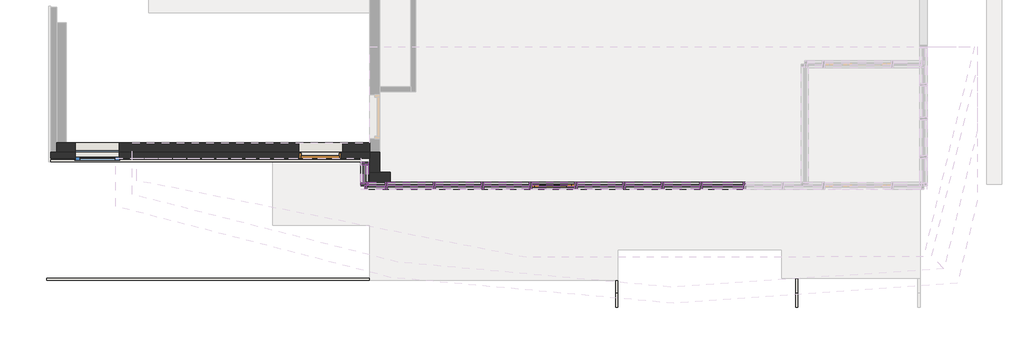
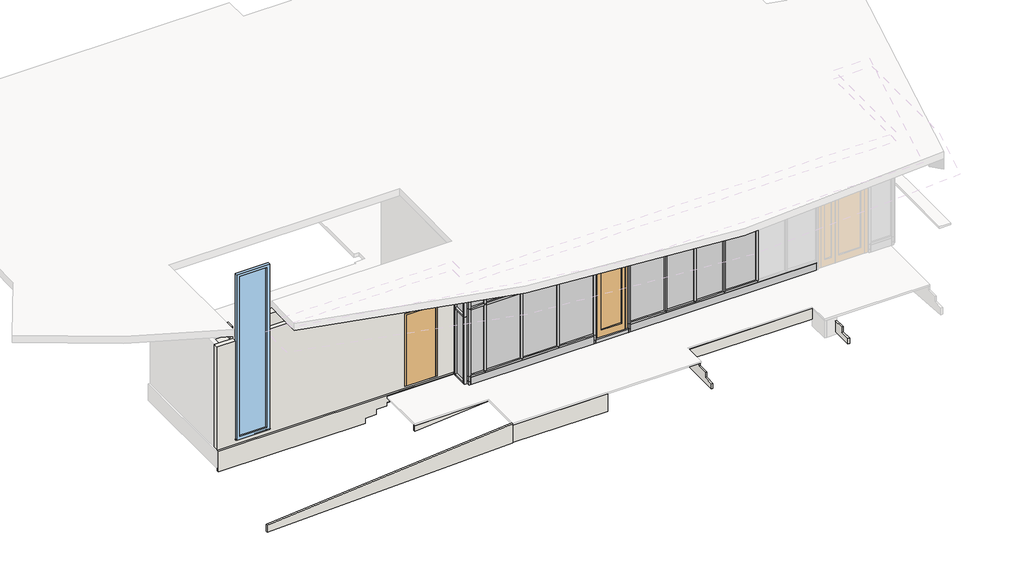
# One storey, part 1 of 4: 59 members, 22 plates, 11 walls, 2 doors, 1 window.
"""IFC4 building model written with IfcOpenShell, lengths in millimetres."""

from ifc_helpers import new_model, si_unit, frame, origin, place, context, project, spatial, polyline, outline, extrude, faceted_brep, transform, mapped, element, save
from components import door_d470666a, door_6cd90bed, member_1f1ab5e9, member_728da853, member_65e6a114, member_e1845f1f, member_3eef92e2, member_550cda47, member_dfe3d6a4, member_004b0564, member_3ddb3363, member_35d6a770, member_55273b40, member_66c8288a, member_bb797b61, member_24efe938, member_14f10ac7, member_bbc1c4ea, member_08303c98, member_8108f97d, member_a620d0bf, member_0ac3c94c, member_a053b0ca, member_12a430f9, member_f478ca5a, member_324a6438, member_457f9466, member_0d3281e4, plate_75760212, plate_d41ff481, plate_732bb6f4, plate_903b2bb5, plate_109dd5f9, plate_8821ab84, plate_eb32b48a, plate_163f2816, plate_3708f6d8, plate_828eb35e, plate_20944b83, window_9bf5e63c

model = new_model("IFC4")

# Units and contexts
model_context = context("Model", 3, world=origin())
ifc_project = project(units=[si_unit("LENGTHUNIT", "METRE", prefix="MILLI")], contexts=[model_context])

# Site, building, storey
site = spatial("IfcSite", under=ifc_project)
building = spatial("IfcBuilding", under=site)
storey = spatial("IfcBuildingStorey", under=building, Name="Этаж 1", Elevation=0.0)

# Doors
placement = place(None, origin())
door_shape = door_d470666a(model_context)
element("IfcDoor", 1, ObjectType="(Dr)_ДПУ(распашная)_1Ст_Прямоугольная : (Вн)-ДО(0.9x2.065(h))", at=placement, inside=storey, context=model_context, shape_type="MappedRepresentation", body=[
    mapped(door_shape, transform((19882.9914484, -895.4505288, 50.0), x_axis=(-1.0, 0.0, 0.0), y_axis=(0.0, -1.0, 0.0), z_axis=(0.0, 0.0, 1.0))),
])
door_2_shape = door_6cd90bed(model_context)
element("IfcDoor", 2, ObjectType="(Dr)_ДУ(распашная)_1Ст_Прямоугольная : (Нр)_ДГ(0.89х2.1(h))", at=placement, inside=storey, context=model_context, shape_type="MappedRepresentation", body=[
    mapped(door_2_shape, transform((15031.0, -260.0, 0.0), x_axis=(-1.0, 0.0, 0.0), y_axis=(0.0, -1.0, 0.0), z_axis=(0.0, 0.0, 1.0))),
])

# Members
member_shape = member_1f1ab5e9(model_context)
element("IfcMember", 3, ObjectType="Прямоугольный импост : 50х150мм", at=placement, inside=storey, context=model_context, shape_type="MappedRepresentation", body=[
    mapped(member_shape, transform((16407.9914484, -895.4505288, 2140.0), x_axis=(1.0, 0.0, 0.0), y_axis=(0.0, -1.0, 0.0), z_axis=(0.0, 0.0, -1.0))),
])
element("IfcMember", 4, ObjectType="Прямоугольный импост : 50х150мм", at=placement, inside=storey, context=model_context, shape_type="MappedRepresentation", body=[
    mapped(member_shape, transform((17407.9914484, -895.4505288, 2140.0), x_axis=(1.0, 0.0, 0.0), y_axis=(0.0, -1.0, 0.0), z_axis=(0.0, 0.0, -1.0))),
])
element("IfcMember", 5, ObjectType="Прямоугольный импост : 50х150мм", at=placement, inside=storey, context=model_context, shape_type="MappedRepresentation", body=[
    mapped(member_shape, transform((19407.9914484, -895.4505288, 2140.0), x_axis=(1.0, 0.0, 0.0), y_axis=(0.0, -1.0, 0.0), z_axis=(0.0, 0.0, -1.0))),
])
element("IfcMember", 6, ObjectType="Прямоугольный импост : 50х150мм", at=placement, inside=storey, context=model_context, shape_type="MappedRepresentation", body=[
    mapped(member_shape, transform((20357.9914484, -895.4505288, 2140.0), x_axis=(1.0, 0.0, 0.0), y_axis=(0.0, -1.0, 0.0), z_axis=(0.0, 0.0, -1.0))),
])
element("IfcMember", 7, ObjectType="Прямоугольный импост : 50х150мм", at=placement, inside=storey, context=model_context, shape_type="MappedRepresentation", body=[
    mapped(member_shape, transform((21357.9914484, -895.4505288, 2140.0), x_axis=(1.0, 0.0, 0.0), y_axis=(0.0, -1.0, 0.0), z_axis=(0.0, 0.0, -1.0))),
])
element("IfcMember", 8, ObjectType="Прямоугольный импост : 50х150мм", at=placement, inside=storey, context=model_context, shape_type="MappedRepresentation", body=[
    mapped(member_shape, transform((22157.9914484, -895.4505288, 2140.0), x_axis=(1.0, 0.0, 0.0), y_axis=(0.0, -1.0, 0.0), z_axis=(0.0, 0.0, -1.0))),
])
element("IfcMember", 9, ObjectType="Прямоугольный импост : 50х150мм", at=placement, inside=storey, context=model_context, shape_type="MappedRepresentation", body=[
    mapped(member_shape, transform((22957.9914484, -895.4505288, 2140.0), x_axis=(1.0, 0.0, 0.0), y_axis=(0.0, -1.0, 0.0), z_axis=(0.0, 0.0, -1.0))),
])
element("IfcMember", 10, ObjectType="Прямоугольный импост : 50х150мм", at=placement, inside=storey, context=model_context, shape_type="MappedRepresentation", body=[
    mapped(member_shape, transform((23857.9914484, -895.4505288, 2140.0), x_axis=(1.0, 0.0, 0.0), y_axis=(0.0, -1.0, 0.0), z_axis=(0.0, 0.0, -1.0))),
])
element("IfcMember", 11, ObjectType="Прямоугольный импост : 50х150мм", at=placement, inside=storey, context=model_context, shape_type="MappedRepresentation", body=[
    mapped(member_shape, transform((18407.9914484, -895.4505288, 2140.0), x_axis=(1.0, 0.0, 0.0), y_axis=(0.0, -1.0, 0.0), z_axis=(0.0, 0.0, -1.0))),
])
member_2_shape = member_728da853(model_context)
element("IfcMember", 12, ObjectType="Прямоугольный импост : 50х150мм", at=placement, inside=storey, context=model_context, shape_type="MappedRepresentation", body=[
    mapped(member_2_shape, transform((19407.9914484, -895.4505288, 190.0), x_axis=(1.0, 0.0, 0.0), y_axis=(0.0, -1.0, 0.0), z_axis=(0.0, 0.0, -1.0))),
])
element("IfcMember", 13, ObjectType="Прямоугольный импост : 50х150мм", at=placement, inside=storey, context=model_context, shape_type="MappedRepresentation", body=[
    mapped(member_2_shape, transform((20357.9914484, -895.4505288, 190.0), x_axis=(1.0, 0.0, 0.0), y_axis=(0.0, -1.0, 0.0), z_axis=(0.0, 0.0, -1.0))),
])
member_3_shape = member_65e6a114(model_context)
element("IfcMember", 14, ObjectType="Прямоугольный импост : 50х150мм", at=placement, inside=storey, context=model_context, shape_type="MappedRepresentation", body=[
    mapped(member_3_shape, transform((15957.9914484, -895.4505288, 3300.0), x_axis=(-1.0, 0.0, 0.0), y_axis=(0.0, -1.0, 0.0), z_axis=(0.0, 0.0, 1.0))),
])
member_4_shape = member_e1845f1f(model_context)
element("IfcMember", 15, ObjectType="Прямоугольный импост : 50х150мм", at=placement, inside=storey, context=model_context, shape_type="MappedRepresentation", body=[
    mapped(member_4_shape, transform((15957.9914484, -895.4505288, 2140.0), x_axis=(-1.0, 0.0, 0.0), y_axis=(0.0, -1.0, 0.0), z_axis=(0.0, 0.0, 1.0))),
])
member_5_shape = member_3eef92e2(model_context)
element("IfcMember", 16, ObjectType="Прямоугольный импост : 50х150мм", at=placement, inside=storey, context=model_context, shape_type="MappedRepresentation", body=[
    mapped(member_5_shape, transform((19407.9914484, -895.4505288, -50.0), x_axis=(1.0, 0.0, 0.0), y_axis=(0.0, -1.0, 0.0), z_axis=(0.0, 0.0, -1.0))),
])
element("IfcMember", 17, ObjectType="Прямоугольный импост : 50х150мм", at=placement, inside=storey, context=model_context, shape_type="MappedRepresentation", body=[
    mapped(member_5_shape, transform((20357.9914484, -895.4505288, -50.0), x_axis=(1.0, 0.0, 0.0), y_axis=(0.0, -1.0, 0.0), z_axis=(0.0, 0.0, -1.0))),
])
member_6_shape = member_550cda47(model_context)
element("IfcMember", 18, ObjectType="Прямоугольный импост : 50х150мм", at=placement, inside=storey, context=model_context, shape_type="MappedRepresentation", body=[
    mapped(member_6_shape, transform((15957.9914484, -895.4505288, 50.0), x_axis=(-1.0, 0.0, 0.0), y_axis=(0.0, -1.0, 0.0), z_axis=(0.0, 0.0, 1.0))),
])
member_7_shape = member_dfe3d6a4(model_context)
element("IfcMember", 19, ObjectType="Прямоугольный импост : 50х150мм", at=placement, inside=storey, context=model_context, shape_type="MappedRepresentation", body=[
    mapped(member_7_shape, transform((19407.9914484, -895.4505288, 50.0), x_axis=(1.0, 0.0, 0.0), y_axis=(0.0, -1.0, 0.0), z_axis=(0.0, 0.0, -1.0))),
])
element("IfcMember", 20, ObjectType="Прямоугольный импост : 50х150мм", at=placement, inside=storey, context=model_context, shape_type="MappedRepresentation", body=[
    mapped(member_7_shape, transform((20357.9914484, -895.4505288, 50.0), x_axis=(1.0, 0.0, 0.0), y_axis=(0.0, -1.0, 0.0), z_axis=(0.0, 0.0, -1.0))),
])
member_8_shape = member_004b0564(model_context)
element("IfcMember", 21, ObjectType="Прямоугольный импост : 50х150мм", at=placement, inside=storey, context=model_context, shape_type="MappedRepresentation", body=[
    mapped(member_8_shape, transform((15957.9914484, -895.4505288, 190.0), x_axis=(-1.0, 0.0, 0.0), y_axis=(0.0, -1.0, 0.0), z_axis=(0.0, 0.0, 1.0))),
])
member_9_shape = member_3ddb3363(model_context)
element("IfcMember", 22, ObjectType="Прямоугольный импост : 50х150мм", at=placement, inside=storey, context=model_context, shape_type="MappedRepresentation", body=[
    mapped(member_9_shape, transform((20332.9914484, -895.4505288, 2140.0), x_axis=(0.0, 0.0, 1.0), y_axis=(0.0, -1.0, 0.0), z_axis=(1.0, 0.0, 0.0))),
])
member_10_shape = member_35d6a770(model_context)
element("IfcMember", 23, ObjectType="Прямоугольный импост : 50х150мм", at=placement, inside=storey, context=model_context, shape_type="MappedRepresentation", body=[
    mapped(member_10_shape, transform((20332.9914484, -895.4505288, 3300.0), x_axis=(0.0, 0.0, 1.0), y_axis=(0.0, -1.0, 0.0), z_axis=(1.0, 0.0, 0.0))),
])
member_11_shape = member_55273b40(model_context)
element("IfcMember", 24, ObjectType="Прямоугольный импост : 50х150мм", at=placement, inside=storey, context=model_context, shape_type="MappedRepresentation", body=[
    mapped(member_11_shape, transform((16382.9914484, -895.4505288, 2140.0), x_axis=(0.0, 0.0, 1.0), y_axis=(0.0, -1.0, 0.0), z_axis=(1.0, 0.0, 0.0))),
])
member_12_shape = member_66c8288a(model_context)
element("IfcMember", 25, ObjectType="Прямоугольный импост : 50х150мм", at=placement, inside=storey, context=model_context, shape_type="MappedRepresentation", body=[
    mapped(member_12_shape, transform((16382.9914484, -895.4505288, 3300.0), x_axis=(0.0, 0.0, 1.0), y_axis=(0.0, -1.0, 0.0), z_axis=(1.0, 0.0, 0.0))),
])
member_13_shape = member_bb797b61(model_context)
element("IfcMember", 26, ObjectType="Прямоугольный импост : 50х150мм", at=placement, inside=storey, context=model_context, shape_type="MappedRepresentation", body=[
    mapped(member_13_shape, transform((21357.9914484, -895.4505288, 190.0), x_axis=(0.0, 0.0, 1.0), y_axis=(0.0, -1.0, 0.0), z_axis=(1.0, 0.0, 0.0))),
])
member_14_shape = member_24efe938(model_context)
element("IfcMember", 27, ObjectType="Прямоугольный импост : 50х150мм", at=placement, inside=storey, context=model_context, shape_type="MappedRepresentation", body=[
    mapped(member_14_shape, transform((16407.9914484, -895.4505288, 215.0), x_axis=(1.0, 0.0, 0.0), y_axis=(0.0, -1.0, 0.0), z_axis=(0.0, 0.0, -1.0))),
])
element("IfcMember", 28, ObjectType="Прямоугольный импост : 50х150мм", at=placement, inside=storey, context=model_context, shape_type="MappedRepresentation", body=[
    mapped(member_14_shape, transform((17407.9914484, -895.4505288, 215.0), x_axis=(1.0, 0.0, 0.0), y_axis=(0.0, -1.0, 0.0), z_axis=(0.0, 0.0, -1.0))),
])
element("IfcMember", 29, ObjectType="Прямоугольный импост : 50х150мм", at=placement, inside=storey, context=model_context, shape_type="MappedRepresentation", body=[
    mapped(member_14_shape, transform((21357.9914484, -895.4505288, 215.0), x_axis=(1.0, 0.0, 0.0), y_axis=(0.0, -1.0, 0.0), z_axis=(0.0, 0.0, -1.0))),
])
element("IfcMember", 30, ObjectType="Прямоугольный импост : 50х150мм", at=placement, inside=storey, context=model_context, shape_type="MappedRepresentation", body=[
    mapped(member_14_shape, transform((22157.9914484, -895.4505288, 215.0), x_axis=(1.0, 0.0, 0.0), y_axis=(0.0, -1.0, 0.0), z_axis=(0.0, 0.0, -1.0))),
])
element("IfcMember", 31, ObjectType="Прямоугольный импост : 50х150мм", at=placement, inside=storey, context=model_context, shape_type="MappedRepresentation", body=[
    mapped(member_14_shape, transform((22957.9914484, -895.4505288, 215.0), x_axis=(1.0, 0.0, 0.0), y_axis=(0.0, -1.0, 0.0), z_axis=(0.0, 0.0, -1.0))),
])
element("IfcMember", 32, ObjectType="Прямоугольный импост : 50х150мм", at=placement, inside=storey, context=model_context, shape_type="MappedRepresentation", body=[
    mapped(member_14_shape, transform((23857.9914484, -895.4505288, 215.0), x_axis=(1.0, 0.0, 0.0), y_axis=(0.0, -1.0, 0.0), z_axis=(0.0, 0.0, -1.0))),
])
element("IfcMember", 33, ObjectType="Прямоугольный импост : 50х150мм", at=placement, inside=storey, context=model_context, shape_type="MappedRepresentation", body=[
    mapped(member_14_shape, transform((18407.9914484, -895.4505288, 215.0), x_axis=(1.0, 0.0, 0.0), y_axis=(0.0, -1.0, 0.0), z_axis=(0.0, 0.0, -1.0))),
])
member_15_shape = member_14f10ac7(model_context)
element("IfcMember", 34, ObjectType="Прямоугольный импост : 50х150мм", at=placement, inside=storey, context=model_context, shape_type="MappedRepresentation", body=[
    mapped(member_15_shape, transform((22157.9914484, -895.4505288, 190.0), x_axis=(0.0, 0.0, 1.0), y_axis=(0.0, -1.0, 0.0), z_axis=(1.0, 0.0, 0.0))),
])
element("IfcMember", 35, ObjectType="Прямоугольный импост : 50х150мм", at=placement, inside=storey, context=model_context, shape_type="MappedRepresentation", body=[
    mapped(member_15_shape, transform((22957.9914484, -895.4505288, 190.0), x_axis=(0.0, 0.0, 1.0), y_axis=(0.0, -1.0, 0.0), z_axis=(1.0, 0.0, 0.0))),
])
element("IfcMember", 36, ObjectType="Прямоугольный импост : 50х150мм", at=placement, inside=storey, context=model_context, shape_type="MappedRepresentation", body=[
    mapped(member_9_shape, transform((23857.9914484, -895.4505288, 190.0), x_axis=(0.0, 0.0, 1.0), y_axis=(0.0, -1.0, 0.0), z_axis=(1.0, 0.0, 0.0))),
])
element("IfcMember", 37, ObjectType="Прямоугольный импост : 50х150мм", at=placement, inside=storey, context=model_context, shape_type="MappedRepresentation", body=[
    mapped(member_13_shape, transform((19382.9914484, -895.4505288, 190.0), x_axis=(0.0, 0.0, 1.0), y_axis=(0.0, -1.0, 0.0), z_axis=(1.0, 0.0, 0.0))),
])
member_16_shape = member_bbc1c4ea(model_context)
element("IfcMember", 38, ObjectType="Прямоугольный импост : 50х150мм", at=placement, inside=storey, context=model_context, shape_type="MappedRepresentation", body=[
    mapped(member_16_shape, transform((17407.9914484, -895.4505288, 190.0), x_axis=(0.0, 0.0, 1.0), y_axis=(0.0, -1.0, 0.0), z_axis=(1.0, 0.0, 0.0))),
])
element("IfcMember", 39, ObjectType="Прямоугольный импост : 50х150мм", at=placement, inside=storey, context=model_context, shape_type="MappedRepresentation", body=[
    mapped(member_16_shape, transform((18407.9914484, -895.4505288, 190.0), x_axis=(0.0, 0.0, 1.0), y_axis=(0.0, -1.0, 0.0), z_axis=(1.0, 0.0, 0.0))),
])
member_17_shape = member_08303c98(model_context)
element("IfcMember", 40, ObjectType="Прямоугольный импост : 50х150мм", at=placement, inside=storey, context=model_context, shape_type="MappedRepresentation", body=[
    mapped(member_17_shape, transform((16407.9914484, -895.4505288, 190.0), x_axis=(0.0, 0.0, 1.0), y_axis=(0.0, -1.0, 0.0), z_axis=(1.0, 0.0, 0.0))),
])
member_18_shape = member_8108f97d(model_context)
element("IfcMember", 41, ObjectType="Прямоугольный импост : 50х150мм", at=placement, inside=storey, context=model_context, shape_type="MappedRepresentation", body=[
    mapped(member_18_shape, transform((15957.9914484, -845.4505288, 3300.0), x_axis=(0.0, 0.0, 1.0), y_axis=(-1.0, 0.0, 0.0), z_axis=(0.0, -1.0, 0.0))),
])
element("IfcMember", 42, ObjectType="Прямоугольный импост : 50х150мм", at=placement, inside=storey, context=model_context, shape_type="MappedRepresentation", body=[
    mapped(member_18_shape, transform((15957.9914484, -460.0, -50.0), x_axis=(0.0, 0.0, -1.0), y_axis=(-1.0, 0.0, 0.0), z_axis=(0.0, 1.0, 0.0))),
])
member_19_shape = member_a620d0bf(model_context)
element("IfcMember", 43, ObjectType="Прямоугольный импост : 50х150мм", at=placement, inside=storey, context=model_context, shape_type="MappedRepresentation", body=[
    mapped(member_19_shape, transform((15957.9914484, -845.4505288, 1900.0), x_axis=(0.0, 0.0, 1.0), y_axis=(-1.0, 0.0, 0.0), z_axis=(0.0, -1.0, 0.0))),
])
element("IfcMember", 44, ObjectType="Прямоугольный импост : 50х150мм", at=placement, inside=storey, context=model_context, shape_type="MappedRepresentation", body=[
    mapped(member_4_shape, transform((15957.9914484, -895.4505288, -50.0), x_axis=(0.0, -1.0, 0.0), y_axis=(-1.0, 0.0, 0.0), z_axis=(0.0, 0.0, -1.0))),
])
member_20_shape = member_0ac3c94c(model_context)
element("IfcMember", 45, ObjectType="Прямоугольный импост : 50х150мм", at=placement, inside=storey, context=model_context, shape_type="MappedRepresentation", body=[
    mapped(member_20_shape, transform((15957.9914484, -410.0, 3300.0), x_axis=(0.0, 1.0, 0.0), y_axis=(-1.0, 0.0, 0.0), z_axis=(0.0, 0.0, 1.0))),
])
element("IfcMember", 46, ObjectType="Прямоугольный импост : 50х150мм", at=placement, inside=storey, context=model_context, shape_type="MappedRepresentation", body=[
    mapped(member_20_shape, transform((15957.9914484, -895.4505288, 1900.0), x_axis=(0.0, -1.0, 0.0), y_axis=(-1.0, 0.0, 0.0), z_axis=(0.0, 0.0, -1.0))),
])
element("IfcMember", 47, ObjectType="Прямоугольный импост : 50х150мм", at=placement, inside=storey, context=model_context, shape_type="MappedRepresentation", body=[
    mapped(member_4_shape, transform((15957.9914484, -410.0, 1900.0), x_axis=(0.0, 1.0, 0.0), y_axis=(-1.0, 0.0, 0.0), z_axis=(0.0, 0.0, 1.0))),
])
member_21_shape = member_a053b0ca(model_context)
element("IfcMember", 48, ObjectType="Прямоугольный импост : 50х150мм", at=placement, inside=storey, context=model_context, shape_type="MappedRepresentation", body=[
    mapped(member_21_shape, transform((17382.9914484, -895.4505288, 2140.0), x_axis=(0.0, 0.0, 1.0), y_axis=(0.0, -1.0, 0.0), z_axis=(1.0, 0.0, 0.0))),
])
element("IfcMember", 49, ObjectType="Прямоугольный импост : 50х150мм", at=placement, inside=storey, context=model_context, shape_type="MappedRepresentation", body=[
    mapped(member_21_shape, transform((18382.9914484, -895.4505288, 2140.0), x_axis=(0.0, 0.0, 1.0), y_axis=(0.0, -1.0, 0.0), z_axis=(1.0, 0.0, 0.0))),
])
element("IfcMember", 50, ObjectType="Прямоугольный импост : 50х150мм", at=placement, inside=storey, context=model_context, shape_type="MappedRepresentation", body=[
    mapped(member_21_shape, transform((21332.9914484, -895.4505288, 2140.0), x_axis=(0.0, 0.0, 1.0), y_axis=(0.0, -1.0, 0.0), z_axis=(1.0, 0.0, 0.0))),
])
element("IfcMember", 51, ObjectType="Прямоугольный импост : 50х150мм", at=placement, inside=storey, context=model_context, shape_type="MappedRepresentation", body=[
    mapped(member_21_shape, transform((19382.9914484, -895.4505288, 2140.0), x_axis=(0.0, 0.0, 1.0), y_axis=(0.0, -1.0, 0.0), z_axis=(1.0, 0.0, 0.0))),
])
member_22_shape = member_12a430f9(model_context)
element("IfcMember", 52, ObjectType="Прямоугольный импост : 50х150мм", at=placement, inside=storey, context=model_context, shape_type="MappedRepresentation", body=[
    mapped(member_22_shape, transform((17382.9914484, -895.4505288, 3300.0), x_axis=(0.0, 0.0, 1.0), y_axis=(0.0, -1.0, 0.0), z_axis=(1.0, 0.0, 0.0))),
])
element("IfcMember", 53, ObjectType="Прямоугольный импост : 50х150мм", at=placement, inside=storey, context=model_context, shape_type="MappedRepresentation", body=[
    mapped(member_22_shape, transform((19382.9914484, -895.4505288, 3300.0), x_axis=(0.0, 0.0, 1.0), y_axis=(0.0, -1.0, 0.0), z_axis=(1.0, 0.0, 0.0))),
])
element("IfcMember", 54, ObjectType="Прямоугольный импост : 50х150мм", at=placement, inside=storey, context=model_context, shape_type="MappedRepresentation", body=[
    mapped(member_22_shape, transform((21332.9914484, -895.4505288, 3300.0), x_axis=(0.0, 0.0, 1.0), y_axis=(0.0, -1.0, 0.0), z_axis=(1.0, 0.0, 0.0))),
])
element("IfcMember", 55, ObjectType="Прямоугольный импост : 50х150мм", at=placement, inside=storey, context=model_context, shape_type="MappedRepresentation", body=[
    mapped(member_22_shape, transform((18382.9914484, -895.4505288, 3300.0), x_axis=(0.0, 0.0, 1.0), y_axis=(0.0, -1.0, 0.0), z_axis=(1.0, 0.0, 0.0))),
])
member_23_shape = member_f478ca5a(model_context)
element("IfcMember", 56, ObjectType="Прямоугольный импост : 50х150мм", at=placement, inside=storey, context=model_context, shape_type="MappedRepresentation", body=[
    mapped(member_23_shape, transform((23832.9914484, -895.4505288, 2140.0), x_axis=(0.0, 0.0, 1.0), y_axis=(0.0, -1.0, 0.0), z_axis=(1.0, 0.0, 0.0))),
])
member_24_shape = member_324a6438(model_context)
element("IfcMember", 57, ObjectType="Прямоугольный импост : 50х150мм", at=placement, inside=storey, context=model_context, shape_type="MappedRepresentation", body=[
    mapped(member_24_shape, transform((23832.9914484, -895.4505288, 3300.0), x_axis=(0.0, 0.0, 1.0), y_axis=(0.0, -1.0, 0.0), z_axis=(1.0, 0.0, 0.0))),
])
member_25_shape = member_457f9466(model_context)
element("IfcMember", 58, ObjectType="Прямоугольный импост : 50х150мм", at=placement, inside=storey, context=model_context, shape_type="MappedRepresentation", body=[
    mapped(member_25_shape, transform((22132.9914484, -895.4505288, 2140.0), x_axis=(0.0, 0.0, 1.0), y_axis=(0.0, -1.0, 0.0), z_axis=(1.0, 0.0, 0.0))),
])
element("IfcMember", 59, ObjectType="Прямоугольный импост : 50х150мм", at=placement, inside=storey, context=model_context, shape_type="MappedRepresentation", body=[
    mapped(member_25_shape, transform((22932.9914484, -895.4505288, 2140.0), x_axis=(0.0, 0.0, 1.0), y_axis=(0.0, -1.0, 0.0), z_axis=(1.0, 0.0, 0.0))),
])
member_26_shape = member_0d3281e4(model_context)
element("IfcMember", 60, ObjectType="Прямоугольный импост : 50х150мм", at=placement, inside=storey, context=model_context, shape_type="MappedRepresentation", body=[
    mapped(member_26_shape, transform((22132.9914484, -895.4505288, 3300.0), x_axis=(0.0, 0.0, 1.0), y_axis=(0.0, -1.0, 0.0), z_axis=(1.0, 0.0, 0.0))),
])
element("IfcMember", 61, ObjectType="Прямоугольный импост : 50х150мм", at=placement, inside=storey, context=model_context, shape_type="MappedRepresentation", body=[
    mapped(member_26_shape, transform((22932.9914484, -895.4505288, 3300.0), x_axis=(0.0, 0.0, 1.0), y_axis=(0.0, -1.0, 0.0), z_axis=(1.0, 0.0, 0.0))),
])

# Plates
element("IfcPlate", 62, ObjectType="(Нр)_(См-10.Ут-130.См-10)", at=placement, inside=storey, context=model_context, shape_type="SweptSolid", body=[
    extrude(outline(polyline([(19382.9914484, -970.4505288), (16007.9914484, -970.4505288), (16007.9914484, -820.4505288), (19382.9914484, -820.4505288), (19382.9914484, -970.4505288)])), frame((0.0, 0.0, -50.0), z_axis=(0.0, 0.0, 1.0), x_axis=(1.0, 0.0, 0.0)), (0.0, 0.0, 1.0), 215.0),
])
element("IfcPlate", 63, ObjectType="(Нр)_(См-10.Ут-130.См-10)", at=placement, inside=storey, context=model_context, shape_type="SweptSolid", body=[
    extrude(outline(polyline([(25481.8862538, -970.4505288), (20382.9914484, -970.4505288), (20382.9914484, -820.4505288), (25481.8862538, -820.4505288), (25481.8862538, -970.4505288)])), frame((0.0, 0.0, -50.0), z_axis=(0.0, 0.0, 1.0), x_axis=(1.0, 0.0, 0.0)), (0.0, 0.0, 1.0), 215.0),
])
element("IfcPlate", 64, ObjectType="(Нр)_(См-10.Ут-130.См-10)", at=placement, inside=storey, context=model_context, shape_type="SweptSolid", body=[
    extrude(outline(polyline([(20332.9914484, -970.4505288), (19432.9914484, -970.4505288), (19432.9914484, -820.4505288), (20332.9914484, -820.4505288), (20332.9914484, -970.4505288)])), frame((0.0, 0.0, -50.0), z_axis=(0.0, 0.0, 1.0), x_axis=(1.0, 0.0, 0.0)), (0.0, 0.0, 1.0), 100.0),
])
plate_shape = plate_75760212(model_context)
element("IfcPlate", 65, ObjectType="Системная панель : Стекло(50мм)", at=placement, inside=storey, context=model_context, shape_type="MappedRepresentation", body=[
    mapped(plate_shape, transform((16907.9914484, -895.4505288, 2165.0), x_axis=(1.0, 0.0, 0.0), y_axis=(0.0, 1.0, 0.0), z_axis=(0.0, 0.0, 1.0))),
])
element("IfcPlate", 66, ObjectType="Системная панель : Стекло(50мм)", at=placement, inside=storey, context=model_context, shape_type="MappedRepresentation", body=[
    mapped(plate_shape, transform((17907.9914484, -895.4505288, 2165.0), x_axis=(1.0, 0.0, 0.0), y_axis=(0.0, 1.0, 0.0), z_axis=(0.0, 0.0, 1.0))),
])
element("IfcPlate", 67, ObjectType="Системная панель : Стекло(50мм)", at=placement, inside=storey, context=model_context, shape_type="MappedRepresentation", body=[
    mapped(plate_shape, transform((20857.9914484, -895.4505288, 2165.0), x_axis=(1.0, 0.0, 0.0), y_axis=(0.0, 1.0, 0.0), z_axis=(0.0, 0.0, 1.0))),
])
element("IfcPlate", 68, ObjectType="Системная панель : Стекло(50мм)", at=placement, inside=storey, context=model_context, shape_type="MappedRepresentation", body=[
    mapped(plate_shape, transform((18907.9914484, -895.4505288, 2165.0), x_axis=(1.0, 0.0, 0.0), y_axis=(0.0, 1.0, 0.0), z_axis=(0.0, 0.0, 1.0))),
])
plate_2_shape = plate_d41ff481(model_context)
element("IfcPlate", 69, ObjectType="Системная панель : Стекло(50мм)", at=placement, inside=storey, context=model_context, shape_type="MappedRepresentation", body=[
    mapped(plate_2_shape, transform((23407.9914484, -895.4505288, 2165.0), x_axis=(1.0, 0.0, 0.0), y_axis=(0.0, 1.0, 0.0), z_axis=(0.0, 0.0, 1.0))),
])
plate_3_shape = plate_732bb6f4(model_context)
element("IfcPlate", 70, ObjectType="Системная панель : Стекло(50мм)", at=placement, inside=storey, context=model_context, shape_type="MappedRepresentation", body=[
    mapped(plate_3_shape, transform((21757.9914484, -895.4505288, 2165.0), x_axis=(1.0, 0.0, 0.0), y_axis=(0.0, 1.0, 0.0), z_axis=(0.0, 0.0, 1.0))),
])
element("IfcPlate", 71, ObjectType="Системная панель : Стекло(50мм)", at=placement, inside=storey, context=model_context, shape_type="MappedRepresentation", body=[
    mapped(plate_3_shape, transform((22557.9914484, -895.4505288, 2165.0), x_axis=(1.0, 0.0, 0.0), y_axis=(0.0, 1.0, 0.0), z_axis=(0.0, 0.0, 1.0))),
])
plate_4_shape = plate_903b2bb5(model_context)
element("IfcPlate", 72, ObjectType="Системная панель : Стекло(50мм)", at=placement, inside=storey, context=model_context, shape_type="MappedRepresentation", body=[
    mapped(plate_4_shape, transform((16907.9914484, -895.4505288, 215.0), x_axis=(1.0, 0.0, 0.0), y_axis=(0.0, 1.0, 0.0), z_axis=(0.0, 0.0, 1.0))),
])
element("IfcPlate", 73, ObjectType="Системная панель : Стекло(50мм)", at=placement, inside=storey, context=model_context, shape_type="MappedRepresentation", body=[
    mapped(plate_4_shape, transform((17907.9914484, -895.4505288, 215.0), x_axis=(1.0, 0.0, 0.0), y_axis=(0.0, 1.0, 0.0), z_axis=(0.0, 0.0, 1.0))),
])
element("IfcPlate", 74, ObjectType="Системная панель : Стекло(50мм)", at=placement, inside=storey, context=model_context, shape_type="MappedRepresentation", body=[
    mapped(plate_4_shape, transform((20857.9914484, -895.4505288, 215.0), x_axis=(1.0, 0.0, 0.0), y_axis=(0.0, 1.0, 0.0), z_axis=(0.0, 0.0, 1.0))),
])
element("IfcPlate", 75, ObjectType="Системная панель : Стекло(50мм)", at=placement, inside=storey, context=model_context, shape_type="MappedRepresentation", body=[
    mapped(plate_4_shape, transform((18907.9914484, -895.4505288, 215.0), x_axis=(1.0, 0.0, 0.0), y_axis=(0.0, 1.0, 0.0), z_axis=(0.0, 0.0, 1.0))),
])
plate_5_shape = plate_109dd5f9(model_context)
element("IfcPlate", 76, ObjectType="Системная панель : Стекло(50мм)", at=placement, inside=storey, context=model_context, shape_type="MappedRepresentation", body=[
    mapped(plate_5_shape, transform((23407.9914484, -895.4505288, 215.0), x_axis=(1.0, 0.0, 0.0), y_axis=(0.0, 1.0, 0.0), z_axis=(0.0, 0.0, 1.0))),
])
plate_6_shape = plate_8821ab84(model_context)
element("IfcPlate", 77, ObjectType="Системная панель : Стекло(50мм)", at=placement, inside=storey, context=model_context, shape_type="MappedRepresentation", body=[
    mapped(plate_6_shape, transform((21757.9914484, -895.4505288, 215.0), x_axis=(1.0, 0.0, 0.0), y_axis=(0.0, 1.0, 0.0), z_axis=(0.0, 0.0, 1.0))),
])
element("IfcPlate", 78, ObjectType="Системная панель : Стекло(50мм)", at=placement, inside=storey, context=model_context, shape_type="MappedRepresentation", body=[
    mapped(plate_6_shape, transform((22557.9914484, -895.4505288, 215.0), x_axis=(1.0, 0.0, 0.0), y_axis=(0.0, 1.0, 0.0), z_axis=(0.0, 0.0, 1.0))),
])
plate_7_shape = plate_eb32b48a(model_context)
element("IfcPlate", 79, ObjectType="Системная панель : Стекло(50мм)", at=placement, inside=storey, context=model_context, shape_type="MappedRepresentation", body=[
    mapped(plate_7_shape, transform((19882.9914484, -895.4505288, 2165.0), x_axis=(1.0, 0.0, 0.0), y_axis=(0.0, 1.0, 0.0), z_axis=(0.0, 0.0, 1.0))),
])
plate_8_shape = plate_163f2816(model_context)
element("IfcPlate", 80, ObjectType="Системная панель : Стекло(50мм)", at=placement, inside=storey, context=model_context, shape_type="MappedRepresentation", body=[
    mapped(plate_8_shape, transform((16195.4914484, -895.4505288, 2165.0), x_axis=(1.0, 0.0, 0.0), y_axis=(0.0, 1.0, 0.0), z_axis=(0.0, 0.0, 1.0))),
])
plate_9_shape = plate_3708f6d8(model_context)
element("IfcPlate", 81, ObjectType="Системная панель : Стекло(50мм)", at=placement, inside=storey, context=model_context, shape_type="MappedRepresentation", body=[
    mapped(plate_9_shape, transform((16195.4914484, -895.4505288, 215.0), x_axis=(1.0, 0.0, 0.0), y_axis=(0.0, 1.0, 0.0), z_axis=(0.0, 0.0, 1.0))),
])
plate_10_shape = plate_828eb35e(model_context)
element("IfcPlate", 82, ObjectType="Системная панель : Стекло(50мм)", at=placement, inside=storey, context=model_context, shape_type="MappedRepresentation", body=[
    mapped(plate_10_shape, transform((15957.9914484, -652.7252644, 0.0), x_axis=(0.0, -1.0, 0.0), y_axis=(1.0, 0.0, 0.0), z_axis=(0.0, 0.0, 1.0))),
])
plate_11_shape = plate_20944b83(model_context)
element("IfcPlate", 83, ObjectType="Системная панель : Стекло(50мм)", at=placement, inside=storey, context=model_context, shape_type="MappedRepresentation", body=[
    mapped(plate_11_shape, transform((15957.9914484, -652.7252644, 1925.0), x_axis=(0.0, -1.0, 0.0), y_axis=(1.0, 0.0, 0.0), z_axis=(0.0, 0.0, 1.0))),
])

# Walls
element("IfcWall", 84, ObjectType="(Нр).(Ут-120)", at=placement, inside=storey, context=model_context, shape_type="Brep", body=[
    faceted_brep([(16070.0, -200.0, -300.0), (15940.0, -200.0, -300.0), (9550.291724, -200.0, -300.0), (9430.291724, -200.0, -300.0), (9430.291724, -200.0, 2955.0), (9550.291724, -200.0, 2955.0), (9938.291724, -200.0, 2955.0), (9938.291724, -200.0, 140.0), (10858.291724, -200.0, 140.0), (10858.291724, -200.0, 2955.0), (16070.0, -200.0, 2955.0), (14586.0, -200.0, 2100.0), (14586.0, -200.0, 0.0), (15476.0, -200.0, 0.0), (15476.0, -200.0, 2100.0), (9430.291724, -320.0, -300.0), (16070.0, -320.0, -300.0), (16070.0, -320.0, 2955.0), (10858.291724, -320.0, 2955.0), (10858.291724, -320.0, 100.0), (9938.291724, -320.0, 100.0), (9938.291724, -320.0, 2955.0), (9430.291724, -320.0, 2955.0), (14586.0, -320.0, 0.0), (14586.0, -320.0, 2100.0), (15476.0, -320.0, 2100.0), (15476.0, -320.0, 0.0), (9938.291724, -300.0, 100.0), (10858.291724, -300.0, 100.0), (10858.291724, -300.0, 140.0), (9938.291724, -300.0, 140.0)], [[[0, 1, 2, 3, 4, 5, 6, 7, 8, 9, 10], [11, 12, 13, 14]], [[15, 16, 17, 18, 19, 20, 21, 22], [23, 24, 25, 26]], [[3, 2, 1, 0, 16, 15]], [[4, 22, 21, 6, 5]], [[17, 10, 9, 18]], [[4, 3, 15, 22]], [[12, 11, 24, 23]], [[24, 11, 14, 25]], [[25, 14, 13, 26]], [[12, 23, 26, 13]], [[27, 28, 29, 30]], [[27, 30, 7, 6, 21, 20]], [[28, 27, 20, 19]], [[29, 28, 19, 18, 9, 8]], [[30, 29, 8, 7]], [[0, 10, 17, 16]]]),
])
element("IfcWall", 85, ObjectType="(Нр)_(ЖБ-200)", at=placement, inside=storey, context=model_context, shape_type="Brep", body=[
    faceted_brep([(9550.291724, -200.0, -300.0), (9750.291724, -200.0, -300.0), (16070.0, -200.0, -300.0), (16070.0, -200.0, -100.0), (16070.0, -200.0, 3300.0), (10858.291724, -200.0, 3300.0), (10858.291724, -200.0, 100.0), (9938.291724, -200.0, 100.0), (9938.291724, -200.0, 3300.0), (9872.291724, -200.0, 3300.0), (9872.291724, -200.0, 2930.0), (9550.291724, -200.0, 2930.0), (15506.0, -200.0, 2100.0), (15506.0, -200.0, 0.0), (14586.0, -200.0, 0.0), (14586.0, -200.0, 2100.0), (16070.0, 0.0, -300.0), (9750.291724, 0.0, -300.0), (9550.291724, 0.0, -300.0), (9550.291724, 0.0, 2930.0), (9872.291724, 0.0, 2930.0), (9872.291724, 0.0, 3300.0), (9938.291724, 0.0, 3300.0), (9938.291724, 0.0, 100.0), (10858.291724, 0.0, 100.0), (10858.291724, 0.0, 3300.0), (16070.0, 0.0, 3300.0), (15506.0, 0.0, 2100.0), (14586.0, 0.0, 2100.0), (14586.0, 0.0, 0.0), (15506.0, 0.0, 0.0)], [[[0, 1, 2, 3, 4, 5, 6, 7, 8, 9, 10, 11], [12, 13, 14, 15]], [[16, 17, 18, 19, 20, 21, 22, 23, 24, 25, 26], [27, 28, 29, 30]], [[2, 1, 0, 18, 17, 16]], [[21, 9, 8, 22]], [[4, 26, 25, 5]], [[4, 3, 2, 16, 26]], [[13, 12, 27, 30]], [[14, 13, 30, 29]], [[15, 14, 29, 28]], [[12, 15, 28, 27]], [[24, 6, 5, 25]], [[6, 24, 23, 7]], [[7, 23, 22, 8]], [[18, 0, 11, 19]], [[20, 19, 11, 10]], [[9, 21, 20, 10]]]),
])
element("IfcWall", 86, ObjectType="(Нр)_(ЖБ-200)", at=placement, inside=storey, context=model_context, shape_type="SweptSolid", body=[
    extrude(outline(polyline([(16070.0, -620.0), (16070.0, -200.0), (16270.0, -200.0), (16270.0, -620.0), (16070.0, -620.0)])), frame((0.0, 0.0, -100.0), z_axis=(0.0, 0.0, 1.0), x_axis=(1.0, 0.0, 0.0)), (0.0, 0.0, 1.0), 3400.0),
])
element("IfcWall", 87, ObjectType="(Нр)_(ЖБ-200)", at=placement, inside=storey, context=model_context, shape_type="Brep", body=[
    faceted_brep([(16070.0, -820.0, -100.0), (16490.0, -820.0, -100.0), (16490.0, -820.0, 3300.0), (16070.0, -820.0, 3300.0), (16070.0, -620.0, -100.0), (16070.0, -620.0, 3300.0), (16270.0, -620.0, 3300.0), (16490.0, -620.0, 3300.0), (16490.0, -620.0, -100.0), (16270.0, -620.0, -100.0)], [[[0, 1, 2, 3]], [[4, 5, 6, 7, 8, 9]], [[1, 0, 4, 9, 8]], [[2, 1, 8, 7]], [[3, 2, 7, 6, 5]], [[0, 3, 5, 4]]]),
])
element("IfcWall", 88, ObjectType="(Нр)_(От-45)_Керамогранит", at=placement, inside=storey, context=model_context, shape_type="Brep", body=[
    faceted_brep([(15882.9914484, -350.0, -25.0), (15882.9914484, -350.0, -225.0), (14049.9990554, -350.0, -225.0), (14049.9990554, -350.0, -325.0), (13749.9990554, -350.0, -325.0), (13749.9990554, -350.0, -475.0), (13449.9990554, -350.0, -475.0), (13449.9990554, -350.0, -625.0), (9430.291724, -350.0, -625.0), (9430.291724, -350.0, -25.0), (15882.9914484, -395.0, -25.0), (9430.291724, -395.0, -25.0), (9430.291724, -395.0, -500.0), (9430.291724, -395.0, -625.0), (13449.9990554, -395.0, -625.0), (13449.9990554, -395.0, -475.0), (13749.9990554, -395.0, -475.0), (13749.9990554, -395.0, -325.0), (14049.9990554, -395.0, -325.0), (14049.9990554, -395.0, -225.0), (15882.9914484, -395.0, -225.0)], [[[0, 1, 2, 3, 4, 5, 6, 7, 8, 9]], [[10, 11, 12, 13, 14, 15, 16, 17, 18, 19, 20]], [[1, 0, 10, 20]], [[2, 1, 20, 19]], [[3, 2, 19, 18]], [[4, 3, 18, 17]], [[5, 4, 17, 16]], [[6, 5, 16, 15]], [[7, 6, 15, 14]], [[8, 7, 14, 13]], [[9, 8, 13, 12, 11]], [[0, 9, 11, 10]]]),
])
element("IfcWall", 89, ObjectType="(Нр)_(От-45)_Керамогранит", at=placement, inside=storey, context=model_context, shape_type="SweptSolid", body=[
    extrude(outline(polyline([(-600.9037711, 16070.0), (-54.51538, 16070.0), (-640.0, 9340.291724), (-840.3482349, 9340.291724), (-600.9037711, 16070.0)])), frame((0.0, -2865.0, 0.0), z_axis=(0.0, 1.0, 0.0), x_axis=(0.0, 0.0, 1.0)), (0.0, 0.0, 1.0), 45.0),
])
element("IfcWall", 90, ObjectType="(Нр)_(От-45)_Керамогранит", at=placement, inside=storey, context=model_context, shape_type="SweptSolid", body=[
    extrude(outline(polyline([(16070.0, -2820.0), (18662.5009446, -2820.0), (18662.5009446, -2865.0), (16070.0, -2865.0), (16070.0, -2820.0)])), frame((0.0, 0.0, -600.0), z_axis=(0.0, 0.0, 1.0), x_axis=(1.0, 0.0, 0.0)), (0.0, 0.0, 1.0), 500.0),
])
element("IfcWall", 91, ObjectType="(Нр)_(От-45)_Керамогранит", at=placement, inside=storey, context=model_context, shape_type="SweptSolid", body=[
    extrude(outline(polyline([(-100.0, 14049.9990554), (-261.6000756, 14049.9990554), (-100.0, 16050.0), (-100.0, 14049.9990554)])), frame((0.0, -1720.0, 0.0), z_axis=(0.0, 1.0, 0.0), x_axis=(0.0, 0.0, 1.0)), (0.0, 0.0, 1.0), 45.0),
])
element("IfcWall", 92, ObjectType="(Нр)_(От-45)_Керамогранит", at=placement, inside=storey, context=model_context, shape_type="Brep", body=[
    faceted_brep([(21185.0009446, -2230.0, -400.0), (24685.0009446, -2230.0, -400.0), (24685.0009446, -2230.0, -100.0), (24640.0009446, -2230.0, -100.0), (21185.0009446, -2230.0, -100.0), (21185.0009446, -2185.0, -400.0), (21185.0009446, -2185.0, -100.0), (24685.0009446, -2185.0, -100.0), (24685.0009446, -2185.0, -400.0)], [[[0, 1, 2, 3, 4]], [[5, 6, 7, 8]], [[1, 0, 5, 8]], [[4, 3, 2, 7, 6]], [[0, 4, 6, 5]], [[2, 1, 8, 7]]]),
])
element("IfcWall", 93, ObjectType="(Нр)_(От-45)_Керамогранит", at=placement, inside=storey, context=model_context, shape_type="Brep", body=[
    faceted_brep([(21185.0009446, -2230.0, -100.0), (21185.0009446, -2230.0, -400.0), (21185.0009446, -2230.0, -500.0), (21185.0009446, -3420.0, -500.0), (21185.0009446, -3420.0, -350.0), (21185.0009446, -3120.0, -350.0), (21185.0009446, -3120.0, -200.0), (21185.0009446, -2820.0, -200.0), (21185.0009446, -2820.0, -100.0), (21230.0009446, -2230.0, -100.0), (21230.0009446, -2820.0, -100.0), (21230.0009446, -2820.0, -200.0), (21230.0009446, -3120.0, -200.0), (21230.0009446, -3120.0, -350.0), (21230.0009446, -3420.0, -350.0), (21230.0009446, -3420.0, -500.0), (21230.0009446, -2230.0, -500.0)], [[[0, 1, 2, 3, 4, 5, 6, 7, 8]], [[9, 10, 11, 12, 13, 14, 15, 16]], [[2, 1, 0, 9, 16]], [[3, 2, 16, 15]], [[4, 3, 15, 14]], [[5, 4, 14, 13]], [[6, 5, 13, 12]], [[7, 6, 12, 11]], [[8, 7, 11, 10]], [[0, 8, 10, 9]]]),
])
element("IfcWall", 94, ObjectType="(Нр)_(От-45)_Керамогранит", at=placement, inside=storey, context=model_context, shape_type="SweptSolid", body=[
    extrude(outline(polyline([(-2797.5, -200.0), (-2797.5, -500.0), (-3420.0, -500.0), (-3420.0, -350.0), (-3120.0, -350.0), (-3120.0, -200.0), (-2797.5, -200.0)])), frame((24924.9990554, 0.0, 0.0), z_axis=(1.0, 0.0, 0.0), x_axis=(0.0, 1.0, 0.0)), (0.0, 0.0, 1.0), 45.0),
])

# Window
window_shape = window_9bf5e63c(model_context)
element("IfcWindow", 95, ObjectType="RFAM2316_Window-10 : Window  FIX(0.92х4.8(h))", at=placement, inside=storey, context=model_context, shape_type="MappedRepresentation", body=[
    mapped(window_shape, transform((10141.4333145, -255.0592833, -800.0), x_axis=(1.0, 0.0, 0.0), y_axis=(0.0, 1.0, 0.0), z_axis=(0.0, 0.0, 1.0))),
])

save(model, "model.ifc")
